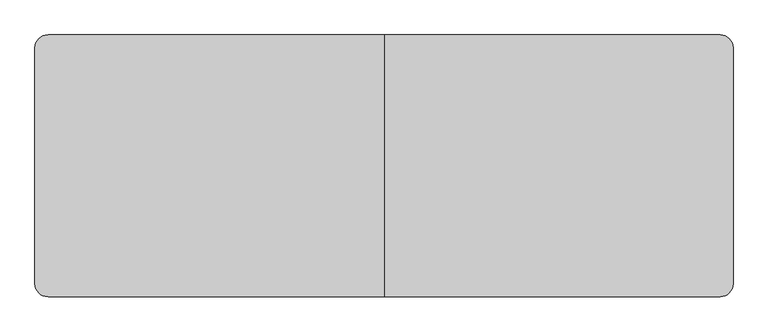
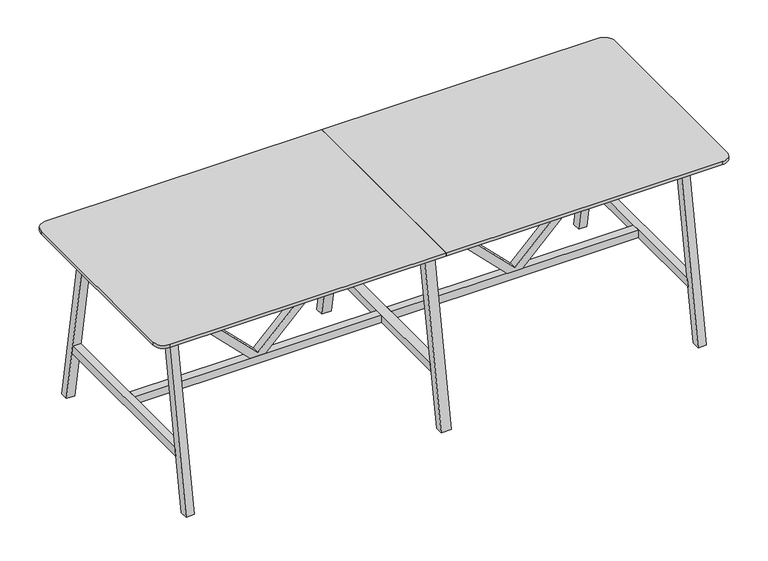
"""IFC4 building model written with IfcOpenShell, lengths in millimetres: furniture geometry, BDG_BossDesign_Tbls_AgentTables6Legs : AGE-HT-6L-3200-1200-3D."""

from ifc_helpers import new_model, si_unit, point, frame, frame_2d, origin, place, context, project, spatial, polyline, circle_curve, trimmed, segment, composite_curve, outline, extrude, source, transform, mapped, element, save


def furniture_330fea7b(model_context):
    return source(origin(), model_context, "Body", "SweptSolid", [
        extrude(outline(polyline([(345.0, 674.0823957), (345.0, 758.4176043), (992.0, 1405.0), (1032.0, 1405.0), (1032.0, 1385.0), (365.0, 716.25), (1032.0, 47.5), (1032.0, 27.5), (992.0, 27.5), (345.0, 674.0823957)])), frame((0.0, -22.5000305, 0.0), z_axis=(0.0, 1.0, 0.0), x_axis=(0.0, 0.0, 1.0)), (0.0, 0.0, 1.0), 45.000061),
        extrude(outline(polyline([(345.0, -674.0823957), (992.0, -27.5), (1032.0, -27.5), (1032.0, -47.5), (365.0, -716.25), (1032.0, -1385.0), (1032.0, -1405.0), (992.0, -1405.0), (345.0, -758.4176043), (345.0, -674.0823957)])), frame((0.0, -22.5000305, 0.0), z_axis=(0.0, 1.0, 0.0), x_axis=(0.0, 0.0, 1.0)), (0.0, 0.0, 1.0), 45.000061),
        extrude(outline(polyline([(600.0, 0.0), (554.9999949, 0.0), (385.5, 970.0), (430.5000051, 970.0), (600.0, 0.0)])), frame((-27.5, 0.0, 0.0), z_axis=(1.0, 0.0, 0.0), x_axis=(0.0, 1.0, 0.0)), (0.0, 0.0, 1.0), 55.0),
        extrude(outline(polyline([(-600.0, 0.0), (-430.5000051, 970.0), (-385.5, 970.0), (-554.9999949, 0.0), (-600.0, 0.0)])), frame((-27.5, 0.0, 0.0), z_axis=(1.0, 0.0, 0.0), x_axis=(0.0, 1.0, 0.0)), (0.0, 0.0, 1.0), 55.0),
        extrude(outline(polyline([(502.5773161, 300.0), (-502.5773161, 300.0), (-494.7139143, 345.0), (494.7139143, 345.0), (502.5773161, 300.0)])), frame((-27.5, 0.0, 0.0), z_axis=(1.0, 0.0, 0.0), x_axis=(0.0, 1.0, 0.0)), (0.0, 0.0, 1.0), 55.0),
        extrude(outline(composite_curve([segment(polyline([(0.0, 600.0), (0.0, -600.0), (-1540.0, -600.0)]), True, "CONTINUOUS"), segment(trimmed(circle_curve(frame_2d((-1540.0, -540.0)), 60.0), [point((-1540.0, -600.0))], [point((-1600.0, -540.0))], False, "CARTESIAN"), True, "CONTINUOUS"), segment(polyline([(-1600.0, -540.0), (-1600.0, 540.0)]), True, "CONTINUOUS"), segment(trimmed(circle_curve(frame_2d((-1540.0, 540.0)), 60.0), [point((-1600.0, 540.0))], [point((-1540.0, 600.0))], False, "CARTESIAN"), True, "CONTINUOUS"), segment(polyline([(-1540.0, 600.0), (0.0, 600.0)]), True, "CONTINUOUS")], self_intersect=False)), frame((0.0, 0.0, 1032.0), z_axis=(0.0, 0.0, 1.0), x_axis=(1.0, 0.0, 0.0)), (0.0, 0.0, 1.0), 18.0),
        extrude(outline(polyline([(-494.7139143, 345.0), (494.7139143, 345.0), (502.5773161, 300.0), (-502.5773161, 300.0), (-494.7139143, 345.0)])), frame((1405.0, 0.0, 0.0), z_axis=(1.0, 0.0, 0.0), x_axis=(0.0, 1.0, 0.0)), (0.0, 0.0, 1.0), 45.0),
        extrude(outline(polyline([(600.0, 0.0), (554.9999949, 0.0), (385.5, 970.0), (430.5000051, 970.0), (600.0, 0.0)])), frame((-1450.0, 0.0, 0.0), z_axis=(1.0, 0.0, 0.0), x_axis=(0.0, 1.0, 0.0)), (0.0, 0.0, 1.0), 45.0),
        extrude(outline(polyline([(-600.0, 0.0), (-430.5000051, 970.0), (-385.5, 970.0), (-554.9999949, 0.0), (-600.0, 0.0)])), frame((-1450.0, 0.0, 0.0), z_axis=(1.0, 0.0, 0.0), x_axis=(0.0, 1.0, 0.0)), (0.0, 0.0, 1.0), 45.0),
        extrude(outline(polyline([(-494.7139143, 345.0), (494.7139143, 345.0), (502.5773161, 300.0), (-502.5773161, 300.0), (-494.7139143, 345.0)])), frame((-1450.0, 0.0, 0.0), z_axis=(1.0, 0.0, 0.0), x_axis=(0.0, 1.0, 0.0)), (0.0, 0.0, 1.0), 45.0),
        extrude(outline(polyline([(-426.6006165, 944.973938), (-404.2770691, 1032.0), (-379.5, 1032.0), (-401.8235474, 944.973938), (-426.6006165, 944.973938)])), frame((-1405.0, 0.0, 0.0), z_axis=(1.0, 0.0, 0.0), x_axis=(0.0, 1.0, 0.0)), (0.0, 0.0, 1.0), 2810.0),
        extrude(outline(polyline([(426.6006165, 944.973938), (401.8235474, 944.973938), (379.5, 1032.0), (404.2770691, 1032.0), (426.6006165, 944.973938)])), frame((-1405.0, 0.0, 0.0), z_axis=(1.0, 0.0, 0.0), x_axis=(0.0, 1.0, 0.0)), (0.0, 0.0, 1.0), 2810.0),
        extrude(outline(polyline([(599.7999878, 0.0), (554.7999827, 0.0), (385.5, 970.0), (430.5000051, 970.0), (599.7999878, 0.0)])), frame((1405.0, 0.0, 0.0), z_axis=(1.0, 0.0, 0.0), x_axis=(0.0, 1.0, 0.0)), (0.0, 0.0, 1.0), 45.0),
        extrude(outline(polyline([(-599.7999878, 0.0), (-430.5000051, 970.0), (-385.5, 970.0), (-554.7999827, 0.0), (-599.7999878, 0.0)])), frame((1405.0, 0.0, 0.0), z_axis=(1.0, 0.0, 0.0), x_axis=(0.0, 1.0, 0.0)), (0.0, 0.0, 1.0), 45.0),
        extrude(outline(polyline([(-27.5, 22.5000305), (-27.5, -22.5000305), (-1405.0, -22.5000305), (-1405.0, 22.5000305), (-27.5, 22.5000305)])), frame((0.0, 0.0, 300.0), z_axis=(0.0, 0.0, 1.0), x_axis=(1.0, 0.0, 0.0)), (0.0, 0.0, 1.0), 45.0),
        extrude(outline(polyline([(27.5, -22.5000305), (27.5, 22.5000305), (1405.0, 22.5000305), (1405.0, -22.5000305), (27.5, -22.5000305)])), frame((0.0, 0.0, 300.0), z_axis=(0.0, 0.0, 1.0), x_axis=(1.0, 0.0, 0.0)), (0.0, 0.0, 1.0), 45.0),
        extrude(outline(composite_curve([segment(trimmed(circle_curve(frame_2d((1540.0, 540.0)), 60.0), [point((1540.0, 600.0))], [point((1600.0, 540.0))], False, "CARTESIAN"), True, "CONTINUOUS"), segment(polyline([(1600.0, 540.0), (1600.0, -540.0)]), True, "CONTINUOUS"), segment(trimmed(circle_curve(frame_2d((1540.0, -540.0)), 60.0), [point((1600.0, -540.0))], [point((1540.0, -600.0))], False, "CARTESIAN"), True, "CONTINUOUS"), segment(polyline([(1540.0, -600.0), (0.0, -600.0), (0.0, 600.0), (1540.0, 600.0)]), True, "CONTINUOUS")], self_intersect=False)), frame((0.0, 0.0, 1032.0), z_axis=(0.0, 0.0, 1.0), x_axis=(1.0, 0.0, 0.0)), (0.0, 0.0, 1.0), 18.0),
    ])


if __name__ == "__main__":
    model = new_model("IFC4")
    model_context = context("Model", 3, world=origin())
    ifc_project = project(units=[si_unit("LENGTHUNIT", "METRE", prefix="MILLI")], contexts=[model_context])
    site = spatial("IfcSite", under=ifc_project)
    building = spatial("IfcBuilding", under=site)
    placement = place(None, origin())
    furniture_shape = furniture_330fea7b(model_context)
    element("IfcFurniture", 1, ObjectType="BDG_BossDesign_Tbls_AgentTables6Legs : AGE-HT-6L-3200-1200-3D", at=placement, inside=building, context=model_context, shape_type="MappedRepresentation", body=[
        mapped(furniture_shape, transform((0.0, 0.0, 0.0), x_axis=(1.0, 0.0, 0.0), y_axis=(0.0, 1.0, 0.0), z_axis=(0.0, 0.0, 1.0))),
    ])
    save(model, "model.ifc")
